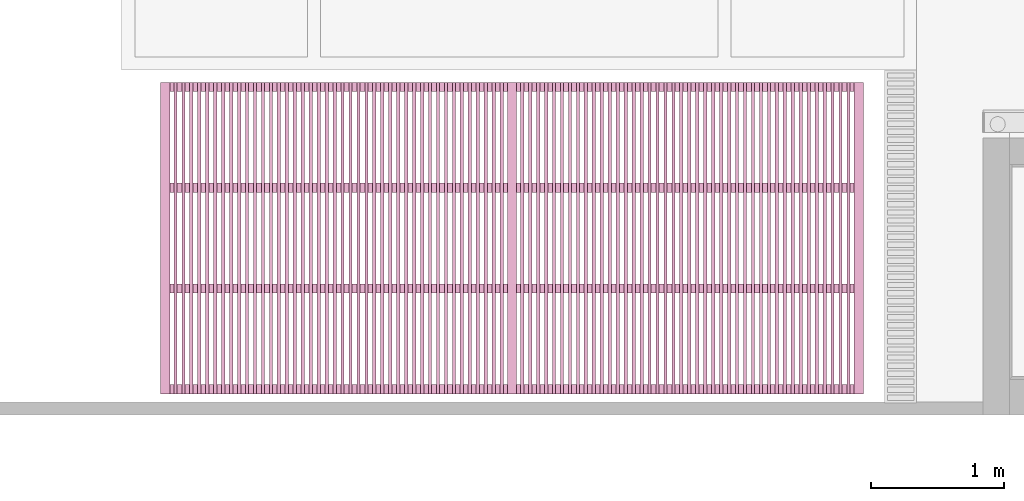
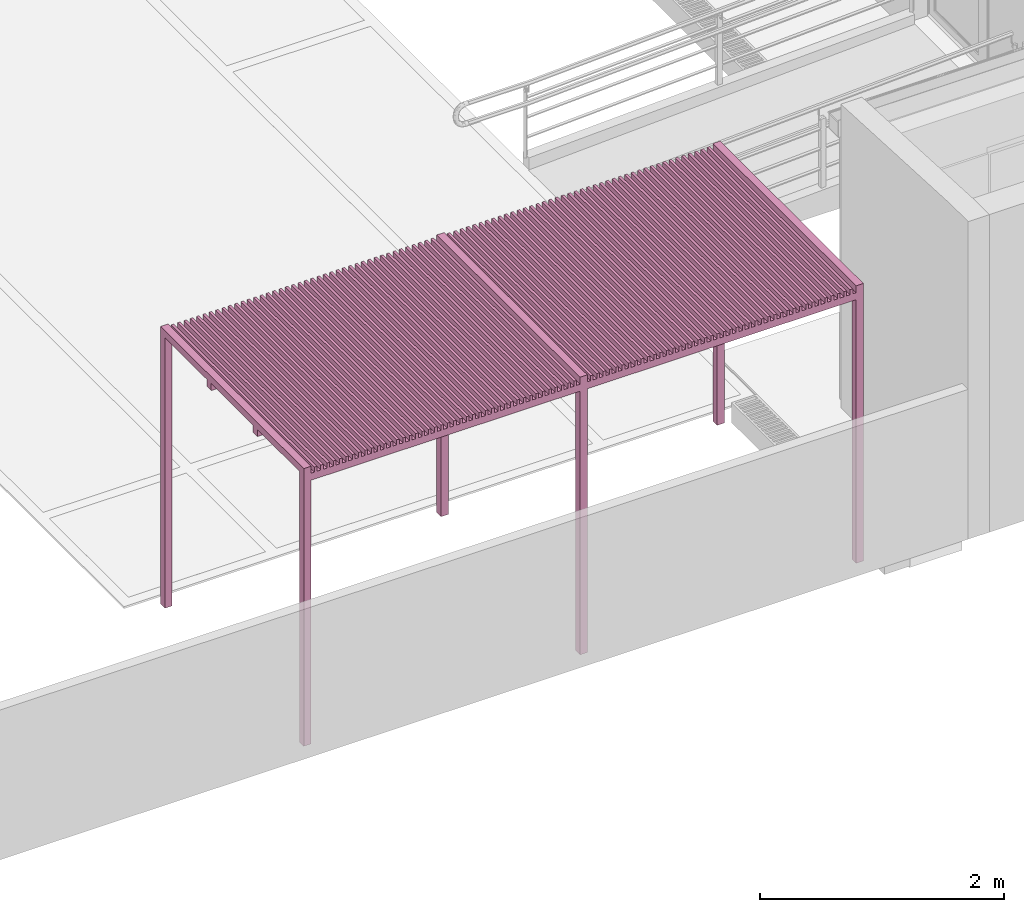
# One storey, part 69 of 75: 1 furnishing.
"""IFC2X3 building model written with IfcOpenShell, lengths in metres."""

from ifc_helpers import new_model, entity, si_unit, converted_unit, derived_unit, direction, frame, frame_2d, origin, origin_2d_with_axis, place, context, subcontext, project, spatial, rectangle, extrude, source, transform, mapped, material, material_list, type_object, type_shapes, element, save


model = new_model("IFC2X3")

# Units and contexts
model_context = context("Model", 3, precision=1e-05, world=origin(), true_north=direction((6.12303176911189e-17, 1.0)))
body_context = subcontext(model_context, "Body", "Model", "MODEL_VIEW")
ifc_project = project(units=[si_unit("LENGTHUNIT", "METRE"), si_unit("AREAUNIT", "SQUARE_METRE"), si_unit("VOLUMEUNIT", "CUBIC_METRE"), converted_unit("PLANEANGLEUNIT", "DEGREE", entity("IfcRatioMeasure", 0.0174532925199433), si_unit("PLANEANGLEUNIT", "RADIAN"), dimensions=[0, 0, 0, 0, 0, 0, 0]), si_unit("MASSUNIT", "GRAM", prefix="KILO"), derived_unit("MASSDENSITYUNIT", [(si_unit("MASSUNIT", "GRAM", prefix="KILO"), 1), (si_unit("LENGTHUNIT", "METRE"), -3)]), derived_unit("MOMENTOFINERTIAUNIT", [(si_unit("LENGTHUNIT", "METRE"), 4)]), si_unit("TIMEUNIT", "SECOND"), si_unit("FREQUENCYUNIT", "HERTZ"), si_unit("THERMODYNAMICTEMPERATUREUNIT", "DEGREE_CELSIUS"), derived_unit("THERMALTRANSMITTANCEUNIT", [(si_unit("MASSUNIT", "GRAM", prefix="KILO"), 1), (si_unit("THERMODYNAMICTEMPERATUREUNIT", "KELVIN"), -1), (si_unit("TIMEUNIT", "SECOND"), -3)]), derived_unit("VOLUMETRICFLOWRATEUNIT", [(si_unit("LENGTHUNIT", "METRE"), 3), (si_unit("TIMEUNIT", "SECOND"), -1)]), si_unit("ELECTRICCURRENTUNIT", "AMPERE"), si_unit("ELECTRICVOLTAGEUNIT", "VOLT"), si_unit("POWERUNIT", "WATT"), si_unit("FORCEUNIT", "NEWTON", prefix="KILO"), si_unit("ILLUMINANCEUNIT", "LUX"), si_unit("LUMINOUSFLUXUNIT", "LUMEN"), si_unit("LUMINOUSINTENSITYUNIT", "CANDELA"), derived_unit("USERDEFINED", [(si_unit("MASSUNIT", "GRAM", prefix="KILO"), -1), (si_unit("LENGTHUNIT", "METRE"), -2), (si_unit("TIMEUNIT", "SECOND"), 3), (si_unit("LUMINOUSFLUXUNIT", "LUMEN"), 1)]), derived_unit("LINEARVELOCITYUNIT", [(si_unit("LENGTHUNIT", "METRE"), 1), (si_unit("TIMEUNIT", "SECOND"), -1)]), si_unit("PRESSUREUNIT", "PASCAL"), derived_unit("USERDEFINED", [(si_unit("LENGTHUNIT", "METRE"), -2), (si_unit("MASSUNIT", "GRAM", prefix="KILO"), 1), (si_unit("TIMEUNIT", "SECOND"), -2)]), derived_unit("LINEARFORCEUNIT", [(si_unit("MASSUNIT", "GRAM", prefix="KILO"), 1), (si_unit("LENGTHUNIT", "METRE"), 1), (si_unit("TIMEUNIT", "SECOND"), -2), (si_unit("LENGTHUNIT", "METRE"), -1)]), derived_unit("PLANARFORCEUNIT", [(si_unit("MASSUNIT", "GRAM", prefix="KILO"), 1), (si_unit("LENGTHUNIT", "METRE"), 1), (si_unit("TIMEUNIT", "SECOND"), -2), (si_unit("LENGTHUNIT", "METRE"), -2)])], contexts=[model_context])

# Site, building, storey
site_placement = place(None, origin())
site = spatial("IfcSite", under=ifc_project, at=site_placement, Name="Superficie", CompositionType="ELEMENT")
building_placement = place(site_placement, origin())
building = spatial("IfcBuilding", under=site, at=building_placement, Name="Telegestiones", CompositionType="ELEMENT")
storey_placement = place(building_placement, origin())
storey = spatial("IfcBuildingStorey", under=building, at=storey_placement, Name="Nivel 0_NPT", CompositionType="ELEMENT", Elevation=0.0)

# Furnishing
ifc_material = material(Name="Acero, acabado de pintura, gris oscuro, mate")
ifc_material_list_1 = material_list([ifc_material, ifc_material, ifc_material, ifc_material, ifc_material, ifc_material, ifc_material, ifc_material, ifc_material, ifc_material, ifc_material, ifc_material, ifc_material, ifc_material, ifc_material, ifc_material, ifc_material, ifc_material, ifc_material, ifc_material, ifc_material, ifc_material, ifc_material, ifc_material, ifc_material, ifc_material, ifc_material, ifc_material, ifc_material, ifc_material, ifc_material, ifc_material, ifc_material, ifc_material, ifc_material, ifc_material, ifc_material, ifc_material, ifc_material, ifc_material, ifc_material, ifc_material, ifc_material, ifc_material, ifc_material, ifc_material, ifc_material, ifc_material, ifc_material, ifc_material, ifc_material, ifc_material, ifc_material, ifc_material, ifc_material, ifc_material, ifc_material, ifc_material, ifc_material, ifc_material, ifc_material, ifc_material, ifc_material, ifc_material, ifc_material, ifc_material, ifc_material, ifc_material, ifc_material, ifc_material, ifc_material, ifc_material, ifc_material, ifc_material, ifc_material, ifc_material, ifc_material, ifc_material, ifc_material, ifc_material, ifc_material, ifc_material, ifc_material, ifc_material, ifc_material, ifc_material, ifc_material, ifc_material, ifc_material, ifc_material, ifc_material, ifc_material, ifc_material, ifc_material, ifc_material, ifc_material, ifc_material])
ifc_material_list_2 = material_list([ifc_material, ifc_material, ifc_material, ifc_material, ifc_material, ifc_material, ifc_material, ifc_material, ifc_material, ifc_material, ifc_material, ifc_material, ifc_material, ifc_material, ifc_material, ifc_material, ifc_material, ifc_material, ifc_material, ifc_material, ifc_material, ifc_material, ifc_material, ifc_material, ifc_material, ifc_material, ifc_material, ifc_material, ifc_material, ifc_material, ifc_material, ifc_material, ifc_material, ifc_material, ifc_material, ifc_material, ifc_material, ifc_material, ifc_material, ifc_material, ifc_material, ifc_material, ifc_material, ifc_material, ifc_material, ifc_material, ifc_material, ifc_material, ifc_material, ifc_material, ifc_material, ifc_material, ifc_material, ifc_material, ifc_material, ifc_material, ifc_material, ifc_material, ifc_material, ifc_material, ifc_material, ifc_material, ifc_material, ifc_material, ifc_material, ifc_material, ifc_material, ifc_material, ifc_material, ifc_material, ifc_material, ifc_material, ifc_material, ifc_material, ifc_material, ifc_material, ifc_material, ifc_material, ifc_material, ifc_material, ifc_material, ifc_material, ifc_material, ifc_material, ifc_material, ifc_material, ifc_material, ifc_material, ifc_material, ifc_material, ifc_material, ifc_material, ifc_material, ifc_material, ifc_material, ifc_material, ifc_material])
furniture_type = type_object("IfcFurnitureType", Name="ARQ-EXT-Pergola-Mad:ARQ-EXT-Pergola-Mad", material=ifc_material_list_2)
shared_shape = source(origin(), body_context, "Body", "SweptSolid", [
    extrude(rectangle(XDim=0.0699999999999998, YDim=0.0700000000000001, at=frame_2d((2.70616862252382e-16, 0.0), x_axis=(1.0, 0.0))), frame((-2.57029967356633, -0.035, 0.0), z_axis=(0.0, 0.0, 1.0), x_axis=(-1.0, 0.0, 0.0)), (0.0, 0.0, 1.0), 2.63999999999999),
    extrude(rectangle(XDim=0.0700000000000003, YDim=0.0700000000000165, at=frame_2d((0.0, -4.11129463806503e-15), x_axis=(1.0, 0.0))), frame((2.65970032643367, -0.0350000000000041, 0.0), z_axis=(0.0, 0.0, 1.0), x_axis=(-1.0, 0.0, 0.0)), (0.0, 0.0, 1.0), 2.63999999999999),
    extrude(rectangle(XDim=0.0699999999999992, YDim=0.0700000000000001, at=frame_2d((0.0, 1.35308431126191e-16), x_axis=(1.0, 0.0))), frame((2.65970032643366, -2.31500000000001, 0.0), z_axis=(0.0, 0.0, 1.0), x_axis=(-1.0, 0.0, 0.0)), (0.0, 0.0, 1.0), 2.63999999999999),
    extrude(rectangle(XDim=0.0699999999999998, YDim=0.0700000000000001, at=frame_2d((2.70616862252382e-16, -1.35308431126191e-16), x_axis=(1.0, 0.0))), frame((-2.57029967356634, -2.31499999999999, 0.0), z_axis=(0.0, 0.0, 1.0), x_axis=(-1.0, 0.0, 0.0)), (0.0, 0.0, 1.0), 2.63999999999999),
    extrude(rectangle(XDim=0.0700000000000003, YDim=0.0700000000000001, at=origin_2d_with_axis()), frame((0.0447003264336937, -0.0349999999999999, 0.0), z_axis=(0.0, 0.0, 1.0), x_axis=(-1.0, 0.0, 0.0)), (0.0, 0.0, 1.0), 2.63999999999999),
    extrude(rectangle(XDim=0.0700000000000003, YDim=0.0700000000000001, at=frame_2d((0.0, -1.35308431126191e-16), x_axis=(1.0, 0.0))), frame((0.0447003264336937, -2.315, 0.0), z_axis=(0.0, 0.0, 1.0), x_axis=(-1.0, 0.0, 0.0)), (0.0, 0.0, 1.0), 2.63999999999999),
    extrude(rectangle(XDim=0.0249999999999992, YDim=2.35, at=origin_2d_with_axis()), frame((-0.0330303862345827, -1.17500000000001, 2.70999999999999), z_axis=(0.0, 0.0, 1.0), x_axis=(-1.0, 0.0, 0.0)), (0.0, 0.0, 1.0), 0.05),
    extrude(rectangle(XDim=0.0249999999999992, YDim=2.35, at=origin_2d_with_axis()), frame((-0.0930303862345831, -1.17500000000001, 2.70999999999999), z_axis=(0.0, 0.0, 1.0), x_axis=(-1.0, 0.0, 0.0)), (0.0, 0.0, 1.0), 0.05),
    extrude(rectangle(XDim=0.0249999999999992, YDim=2.35, at=origin_2d_with_axis()), frame((-0.153030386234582, -1.17500000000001, 2.70999999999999), z_axis=(0.0, 0.0, 1.0), x_axis=(-1.0, 0.0, 0.0)), (0.0, 0.0, 1.0), 0.05),
    extrude(rectangle(XDim=0.0249999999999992, YDim=2.35, at=origin_2d_with_axis()), frame((-0.213030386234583, -1.17500000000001, 2.70999999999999), z_axis=(0.0, 0.0, 1.0), x_axis=(-1.0, 0.0, 0.0)), (0.0, 0.0, 1.0), 0.05),
    extrude(rectangle(XDim=0.0249999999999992, YDim=2.35, at=origin_2d_with_axis()), frame((-0.273030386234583, -1.17500000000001, 2.70999999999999), z_axis=(0.0, 0.0, 1.0), x_axis=(-1.0, 0.0, 0.0)), (0.0, 0.0, 1.0), 0.05),
    extrude(rectangle(XDim=0.0249999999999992, YDim=2.35, at=origin_2d_with_axis()), frame((-0.333030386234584, -1.17500000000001, 2.70999999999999), z_axis=(0.0, 0.0, 1.0), x_axis=(-1.0, 0.0, 0.0)), (0.0, 0.0, 1.0), 0.05),
    extrude(rectangle(XDim=0.0249999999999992, YDim=2.35, at=origin_2d_with_axis()), frame((-0.393030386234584, -1.17500000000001, 2.70999999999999), z_axis=(0.0, 0.0, 1.0), x_axis=(-1.0, 0.0, 0.0)), (0.0, 0.0, 1.0), 0.05),
    extrude(rectangle(XDim=0.0249999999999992, YDim=2.35, at=origin_2d_with_axis()), frame((-0.453030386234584, -1.17500000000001, 2.70999999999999), z_axis=(0.0, 0.0, 1.0), x_axis=(-1.0, 0.0, 0.0)), (0.0, 0.0, 1.0), 0.05),
    extrude(rectangle(XDim=0.0249999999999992, YDim=2.35, at=origin_2d_with_axis()), frame((-0.513030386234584, -1.17500000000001, 2.70999999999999), z_axis=(0.0, 0.0, 1.0), x_axis=(-1.0, 0.0, 0.0)), (0.0, 0.0, 1.0), 0.05),
    extrude(rectangle(XDim=0.0249999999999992, YDim=2.35, at=origin_2d_with_axis()), frame((-0.573030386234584, -1.17500000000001, 2.70999999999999), z_axis=(0.0, 0.0, 1.0), x_axis=(-1.0, 0.0, 0.0)), (0.0, 0.0, 1.0), 0.05),
    extrude(rectangle(XDim=0.0249999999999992, YDim=2.35, at=origin_2d_with_axis()), frame((-0.633030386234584, -1.17500000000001, 2.70999999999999), z_axis=(0.0, 0.0, 1.0), x_axis=(-1.0, 0.0, 0.0)), (0.0, 0.0, 1.0), 0.05),
    extrude(rectangle(XDim=0.0249999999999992, YDim=2.35, at=origin_2d_with_axis()), frame((-0.693030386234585, -1.175, 2.70999999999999), z_axis=(0.0, 0.0, 1.0), x_axis=(-1.0, 0.0, 0.0)), (0.0, 0.0, 1.0), 0.05),
    extrude(rectangle(XDim=0.0249999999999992, YDim=2.35, at=origin_2d_with_axis()), frame((-0.753030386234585, -1.175, 2.70999999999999), z_axis=(0.0, 0.0, 1.0), x_axis=(-1.0, 0.0, 0.0)), (0.0, 0.0, 1.0), 0.05),
    extrude(rectangle(XDim=0.0249999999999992, YDim=2.35, at=origin_2d_with_axis()), frame((-0.813030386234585, -1.175, 2.70999999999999), z_axis=(0.0, 0.0, 1.0), x_axis=(-1.0, 0.0, 0.0)), (0.0, 0.0, 1.0), 0.05),
    extrude(rectangle(XDim=0.0249999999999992, YDim=2.35, at=origin_2d_with_axis()), frame((-0.873030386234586, -1.175, 2.70999999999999), z_axis=(0.0, 0.0, 1.0), x_axis=(-1.0, 0.0, 0.0)), (0.0, 0.0, 1.0), 0.05),
    extrude(rectangle(XDim=0.0249999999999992, YDim=2.35, at=origin_2d_with_axis()), frame((-0.933030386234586, -1.175, 2.70999999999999), z_axis=(0.0, 0.0, 1.0), x_axis=(-1.0, 0.0, 0.0)), (0.0, 0.0, 1.0), 0.05),
    extrude(rectangle(XDim=0.0249999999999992, YDim=2.35, at=origin_2d_with_axis()), frame((-0.993030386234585, -1.175, 2.70999999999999), z_axis=(0.0, 0.0, 1.0), x_axis=(-1.0, 0.0, 0.0)), (0.0, 0.0, 1.0), 0.05),
    extrude(rectangle(XDim=0.0249999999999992, YDim=2.35, at=origin_2d_with_axis()), frame((-1.05303038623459, -1.175, 2.70999999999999), z_axis=(0.0, 0.0, 1.0), x_axis=(-1.0, 0.0, 0.0)), (0.0, 0.0, 1.0), 0.05),
    extrude(rectangle(XDim=0.0249999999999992, YDim=2.35, at=origin_2d_with_axis()), frame((-1.11303038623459, -1.175, 2.70999999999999), z_axis=(0.0, 0.0, 1.0), x_axis=(-1.0, 0.0, 0.0)), (0.0, 0.0, 1.0), 0.05),
    extrude(rectangle(XDim=0.0249999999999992, YDim=2.35, at=origin_2d_with_axis()), frame((-1.17303038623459, -1.175, 2.70999999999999), z_axis=(0.0, 0.0, 1.0), x_axis=(-1.0, 0.0, 0.0)), (0.0, 0.0, 1.0), 0.05),
    extrude(rectangle(XDim=0.0249999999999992, YDim=2.35, at=origin_2d_with_axis()), frame((-1.23303038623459, -1.175, 2.70999999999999), z_axis=(0.0, 0.0, 1.0), x_axis=(-1.0, 0.0, 0.0)), (0.0, 0.0, 1.0), 0.05),
    extrude(rectangle(XDim=0.0249999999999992, YDim=2.35, at=origin_2d_with_axis()), frame((-1.29303038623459, -1.175, 2.70999999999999), z_axis=(0.0, 0.0, 1.0), x_axis=(-1.0, 0.0, 0.0)), (0.0, 0.0, 1.0), 0.05),
    extrude(rectangle(XDim=0.0249999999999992, YDim=2.35, at=origin_2d_with_axis()), frame((-1.35303038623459, -1.175, 2.70999999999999), z_axis=(0.0, 0.0, 1.0), x_axis=(-1.0, 0.0, 0.0)), (0.0, 0.0, 1.0), 0.05),
    extrude(rectangle(XDim=0.0249999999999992, YDim=2.35, at=origin_2d_with_axis()), frame((-1.41303038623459, -1.175, 2.70999999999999), z_axis=(0.0, 0.0, 1.0), x_axis=(-1.0, 0.0, 0.0)), (0.0, 0.0, 1.0), 0.05),
    extrude(rectangle(XDim=0.0249999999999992, YDim=2.35, at=origin_2d_with_axis()), frame((-1.47303038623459, -1.175, 2.70999999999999), z_axis=(0.0, 0.0, 1.0), x_axis=(-1.0, 0.0, 0.0)), (0.0, 0.0, 1.0), 0.05),
    extrude(rectangle(XDim=0.0249999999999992, YDim=2.35, at=origin_2d_with_axis()), frame((-1.53303038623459, -1.175, 2.70999999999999), z_axis=(0.0, 0.0, 1.0), x_axis=(-1.0, 0.0, 0.0)), (0.0, 0.0, 1.0), 0.05),
    extrude(rectangle(XDim=0.0249999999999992, YDim=2.35, at=origin_2d_with_axis()), frame((-1.59303038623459, -1.175, 2.70999999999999), z_axis=(0.0, 0.0, 1.0), x_axis=(-1.0, 0.0, 0.0)), (0.0, 0.0, 1.0), 0.05),
    extrude(rectangle(XDim=0.0249999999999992, YDim=2.35, at=frame_2d((2.70616862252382e-16, 0.0), x_axis=(1.0, 0.0))), frame((-1.65303038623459, -1.175, 2.70999999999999), z_axis=(0.0, 0.0, 1.0), x_axis=(-1.0, 0.0, 0.0)), (0.0, 0.0, 1.0), 0.05),
    extrude(rectangle(XDim=0.0249999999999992, YDim=2.35, at=frame_2d((-2.70616862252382e-16, 0.0), x_axis=(1.0, 0.0))), frame((-1.71303038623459, -1.175, 2.70999999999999), z_axis=(0.0, 0.0, 1.0), x_axis=(-1.0, 0.0, 0.0)), (0.0, 0.0, 1.0), 0.05),
    extrude(rectangle(XDim=0.0249999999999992, YDim=2.35, at=frame_2d((2.70616862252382e-16, 0.0), x_axis=(1.0, 0.0))), frame((-1.77303038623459, -1.175, 2.70999999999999), z_axis=(0.0, 0.0, 1.0), x_axis=(-1.0, 0.0, 0.0)), (0.0, 0.0, 1.0), 0.05),
    extrude(rectangle(XDim=0.0249999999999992, YDim=2.35, at=frame_2d((-2.70616862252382e-16, 0.0), x_axis=(1.0, 0.0))), frame((-1.83303038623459, -1.175, 2.70999999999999), z_axis=(0.0, 0.0, 1.0), x_axis=(-1.0, 0.0, 0.0)), (0.0, 0.0, 1.0), 0.05),
    extrude(rectangle(XDim=0.0249999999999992, YDim=2.35, at=origin_2d_with_axis()), frame((-1.89303038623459, -1.175, 2.70999999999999), z_axis=(0.0, 0.0, 1.0), x_axis=(-1.0, 0.0, 0.0)), (0.0, 0.0, 1.0), 0.05),
    extrude(rectangle(XDim=0.0249999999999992, YDim=2.35, at=frame_2d((2.70616862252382e-16, 0.0), x_axis=(1.0, 0.0))), frame((-1.95303038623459, -1.175, 2.70999999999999), z_axis=(0.0, 0.0, 1.0), x_axis=(-1.0, 0.0, 0.0)), (0.0, 0.0, 1.0), 0.05),
    extrude(rectangle(XDim=0.0249999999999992, YDim=2.35, at=frame_2d((-2.70616862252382e-16, 0.0), x_axis=(1.0, 0.0))), frame((-2.01303038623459, -1.175, 2.70999999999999), z_axis=(0.0, 0.0, 1.0), x_axis=(-1.0, 0.0, 0.0)), (0.0, 0.0, 1.0), 0.05),
    extrude(rectangle(XDim=0.0249999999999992, YDim=2.35, at=frame_2d((2.70616862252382e-16, 0.0), x_axis=(1.0, 0.0))), frame((-2.07303038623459, -1.175, 2.70999999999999), z_axis=(0.0, 0.0, 1.0), x_axis=(-1.0, 0.0, 0.0)), (0.0, 0.0, 1.0), 0.05),
    extrude(rectangle(XDim=0.0249999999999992, YDim=2.35, at=origin_2d_with_axis()), frame((-2.13303038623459, -1.175, 2.70999999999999), z_axis=(0.0, 0.0, 1.0), x_axis=(-1.0, 0.0, 0.0)), (0.0, 0.0, 1.0), 0.05),
    extrude(rectangle(XDim=0.0249999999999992, YDim=2.35, at=origin_2d_with_axis()), frame((-2.19303038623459, -1.175, 2.70999999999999), z_axis=(0.0, 0.0, 1.0), x_axis=(-1.0, 0.0, 0.0)), (0.0, 0.0, 1.0), 0.05),
    extrude(rectangle(XDim=0.0249999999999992, YDim=2.35, at=frame_2d((2.70616862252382e-16, 0.0), x_axis=(1.0, 0.0))), frame((-2.25303038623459, -1.175, 2.70999999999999), z_axis=(0.0, 0.0, 1.0), x_axis=(-1.0, 0.0, 0.0)), (0.0, 0.0, 1.0), 0.05),
    extrude(rectangle(XDim=0.0249999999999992, YDim=2.35, at=frame_2d((-2.70616862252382e-16, 0.0), x_axis=(1.0, 0.0))), frame((-2.31303038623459, -1.175, 2.70999999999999), z_axis=(0.0, 0.0, 1.0), x_axis=(-1.0, 0.0, 0.0)), (0.0, 0.0, 1.0), 0.05),
    extrude(rectangle(XDim=0.0249999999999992, YDim=2.35, at=origin_2d_with_axis()), frame((-2.37303038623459, -1.175, 2.70999999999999), z_axis=(0.0, 0.0, 1.0), x_axis=(-1.0, 0.0, 0.0)), (0.0, 0.0, 1.0), 0.05),
    extrude(rectangle(XDim=0.0249999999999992, YDim=2.35, at=origin_2d_with_axis()), frame((-2.43303038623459, -1.175, 2.70999999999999), z_axis=(0.0, 0.0, 1.0), x_axis=(-1.0, 0.0, 0.0)), (0.0, 0.0, 1.0), 0.05),
    extrude(rectangle(XDim=0.0249999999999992, YDim=2.35, at=frame_2d((-2.70616862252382e-16, 0.0), x_axis=(1.0, 0.0))), frame((-2.49303038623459, -1.175, 2.70999999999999), z_axis=(0.0, 0.0, 1.0), x_axis=(-1.0, 0.0, 0.0)), (0.0, 0.0, 1.0), 0.05),
    extrude(rectangle(XDim=0.0249999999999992, YDim=2.35, at=frame_2d((2.70616862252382e-16, 0.0), x_axis=(1.0, 0.0))), frame((2.5819696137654, -1.17500000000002, 2.70999999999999), z_axis=(0.0, 0.0, 1.0), x_axis=(-1.0, 0.0, 0.0)), (0.0, 0.0, 1.0), 0.05),
    extrude(rectangle(XDim=0.0249999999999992, YDim=2.35, at=frame_2d((2.70616862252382e-16, 0.0), x_axis=(1.0, 0.0))), frame((2.5219696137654, -1.17500000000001, 2.70999999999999), z_axis=(0.0, 0.0, 1.0), x_axis=(-1.0, 0.0, 0.0)), (0.0, 0.0, 1.0), 0.05),
    extrude(rectangle(XDim=0.0249999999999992, YDim=2.35, at=frame_2d((2.70616862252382e-16, 0.0), x_axis=(1.0, 0.0))), frame((2.4619696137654, -1.17500000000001, 2.70999999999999), z_axis=(0.0, 0.0, 1.0), x_axis=(-1.0, 0.0, 0.0)), (0.0, 0.0, 1.0), 0.05),
    extrude(rectangle(XDim=0.0249999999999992, YDim=2.35, at=origin_2d_with_axis()), frame((2.4019696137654, -1.17500000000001, 2.70999999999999), z_axis=(0.0, 0.0, 1.0), x_axis=(-1.0, 0.0, 0.0)), (0.0, 0.0, 1.0), 0.05),
    extrude(rectangle(XDim=0.0249999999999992, YDim=2.35, at=origin_2d_with_axis()), frame((2.3419696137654, -1.17500000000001, 2.70999999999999), z_axis=(0.0, 0.0, 1.0), x_axis=(-1.0, 0.0, 0.0)), (0.0, 0.0, 1.0), 0.05),
    extrude(rectangle(XDim=0.0249999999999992, YDim=2.35, at=origin_2d_with_axis()), frame((2.2819696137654, -1.17500000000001, 2.70999999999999), z_axis=(0.0, 0.0, 1.0), x_axis=(-1.0, 0.0, 0.0)), (0.0, 0.0, 1.0), 0.05),
    extrude(rectangle(XDim=0.0249999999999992, YDim=2.35, at=origin_2d_with_axis()), frame((2.22196961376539, -1.17500000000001, 2.70999999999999), z_axis=(0.0, 0.0, 1.0), x_axis=(-1.0, 0.0, 0.0)), (0.0, 0.0, 1.0), 0.05),
    extrude(rectangle(XDim=0.0249999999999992, YDim=2.35, at=frame_2d((-2.70616862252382e-16, 0.0), x_axis=(1.0, 0.0))), frame((2.16196961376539, -1.17500000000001, 2.70999999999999), z_axis=(0.0, 0.0, 1.0), x_axis=(-1.0, 0.0, 0.0)), (0.0, 0.0, 1.0), 0.05),
    extrude(rectangle(XDim=0.0249999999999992, YDim=2.35, at=origin_2d_with_axis()), frame((2.10196961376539, -1.17500000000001, 2.70999999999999), z_axis=(0.0, 0.0, 1.0), x_axis=(-1.0, 0.0, 0.0)), (0.0, 0.0, 1.0), 0.05),
    extrude(rectangle(XDim=0.0249999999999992, YDim=2.35, at=origin_2d_with_axis()), frame((2.04196961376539, -1.17500000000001, 2.70999999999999), z_axis=(0.0, 0.0, 1.0), x_axis=(-1.0, 0.0, 0.0)), (0.0, 0.0, 1.0), 0.05),
    extrude(rectangle(XDim=0.0249999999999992, YDim=2.35, at=frame_2d((-2.70616862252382e-16, 0.0), x_axis=(1.0, 0.0))), frame((1.98196961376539, -1.17500000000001, 2.70999999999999), z_axis=(0.0, 0.0, 1.0), x_axis=(-1.0, 0.0, 0.0)), (0.0, 0.0, 1.0), 0.05),
    extrude(rectangle(XDim=0.0249999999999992, YDim=2.35, at=frame_2d((2.70616862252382e-16, 0.0), x_axis=(1.0, 0.0))), frame((1.92196961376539, -1.17500000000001, 2.70999999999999), z_axis=(0.0, 0.0, 1.0), x_axis=(-1.0, 0.0, 0.0)), (0.0, 0.0, 1.0), 0.05),
    extrude(rectangle(XDim=0.0249999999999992, YDim=2.35, at=frame_2d((-2.70616862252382e-16, 0.0), x_axis=(1.0, 0.0))), frame((1.86196961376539, -1.17500000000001, 2.70999999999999), z_axis=(0.0, 0.0, 1.0), x_axis=(-1.0, 0.0, 0.0)), (0.0, 0.0, 1.0), 0.05),
    extrude(rectangle(XDim=0.0249999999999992, YDim=2.35, at=origin_2d_with_axis()), frame((1.80196961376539, -1.17500000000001, 2.70999999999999), z_axis=(0.0, 0.0, 1.0), x_axis=(-1.0, 0.0, 0.0)), (0.0, 0.0, 1.0), 0.05),
    extrude(rectangle(XDim=0.0249999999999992, YDim=2.35, at=origin_2d_with_axis()), frame((1.74196961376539, -1.17500000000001, 2.70999999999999), z_axis=(0.0, 0.0, 1.0), x_axis=(-1.0, 0.0, 0.0)), (0.0, 0.0, 1.0), 0.05),
    extrude(rectangle(XDim=0.0249999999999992, YDim=2.35, at=origin_2d_with_axis()), frame((1.68196961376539, -1.17500000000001, 2.70999999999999), z_axis=(0.0, 0.0, 1.0), x_axis=(-1.0, 0.0, 0.0)), (0.0, 0.0, 1.0), 0.05),
    extrude(rectangle(XDim=0.0249999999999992, YDim=2.35, at=origin_2d_with_axis()), frame((1.62196961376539, -1.17500000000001, 2.70999999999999), z_axis=(0.0, 0.0, 1.0), x_axis=(-1.0, 0.0, 0.0)), (0.0, 0.0, 1.0), 0.05),
    extrude(rectangle(XDim=0.0249999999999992, YDim=2.35, at=origin_2d_with_axis()), frame((1.56196961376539, -1.17500000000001, 2.70999999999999), z_axis=(0.0, 0.0, 1.0), x_axis=(-1.0, 0.0, 0.0)), (0.0, 0.0, 1.0), 0.05),
    extrude(rectangle(XDim=0.0249999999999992, YDim=2.35, at=origin_2d_with_axis()), frame((1.50196961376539, -1.17500000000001, 2.70999999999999), z_axis=(0.0, 0.0, 1.0), x_axis=(-1.0, 0.0, 0.0)), (0.0, 0.0, 1.0), 0.05),
    extrude(rectangle(XDim=0.0249999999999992, YDim=2.35, at=origin_2d_with_axis()), frame((1.44196961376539, -1.17500000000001, 2.70999999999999), z_axis=(0.0, 0.0, 1.0), x_axis=(-1.0, 0.0, 0.0)), (0.0, 0.0, 1.0), 0.05),
    extrude(rectangle(XDim=0.0249999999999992, YDim=2.35, at=origin_2d_with_axis()), frame((1.38196961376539, -1.17500000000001, 2.70999999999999), z_axis=(0.0, 0.0, 1.0), x_axis=(-1.0, 0.0, 0.0)), (0.0, 0.0, 1.0), 0.05),
    extrude(rectangle(XDim=0.0249999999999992, YDim=2.35, at=origin_2d_with_axis()), frame((1.32196961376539, -1.17500000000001, 2.70999999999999), z_axis=(0.0, 0.0, 1.0), x_axis=(-1.0, 0.0, 0.0)), (0.0, 0.0, 1.0), 0.05),
    extrude(rectangle(XDim=0.0249999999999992, YDim=2.35, at=origin_2d_with_axis()), frame((1.26196961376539, -1.17500000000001, 2.70999999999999), z_axis=(0.0, 0.0, 1.0), x_axis=(-1.0, 0.0, 0.0)), (0.0, 0.0, 1.0), 0.05),
    extrude(rectangle(XDim=0.0249999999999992, YDim=2.35, at=origin_2d_with_axis()), frame((1.20196961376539, -1.17500000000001, 2.70999999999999), z_axis=(0.0, 0.0, 1.0), x_axis=(-1.0, 0.0, 0.0)), (0.0, 0.0, 1.0), 0.05),
    extrude(rectangle(XDim=0.0249999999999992, YDim=2.35, at=origin_2d_with_axis()), frame((1.14196961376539, -1.17500000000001, 2.70999999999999), z_axis=(0.0, 0.0, 1.0), x_axis=(-1.0, 0.0, 0.0)), (0.0, 0.0, 1.0), 0.05),
    extrude(rectangle(XDim=0.0249999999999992, YDim=2.35, at=origin_2d_with_axis()), frame((1.08196961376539, -1.17500000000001, 2.70999999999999), z_axis=(0.0, 0.0, 1.0), x_axis=(-1.0, 0.0, 0.0)), (0.0, 0.0, 1.0), 0.05),
    extrude(rectangle(XDim=0.0249999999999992, YDim=2.35, at=origin_2d_with_axis()), frame((1.02196961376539, -1.17500000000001, 2.70999999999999), z_axis=(0.0, 0.0, 1.0), x_axis=(-1.0, 0.0, 0.0)), (0.0, 0.0, 1.0), 0.05),
    extrude(rectangle(XDim=0.0249999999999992, YDim=2.35, at=origin_2d_with_axis()), frame((0.961969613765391, -1.17500000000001, 2.70999999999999), z_axis=(0.0, 0.0, 1.0), x_axis=(-1.0, 0.0, 0.0)), (0.0, 0.0, 1.0), 0.05),
    extrude(rectangle(XDim=0.0249999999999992, YDim=2.35, at=origin_2d_with_axis()), frame((0.901969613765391, -1.17500000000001, 2.70999999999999), z_axis=(0.0, 0.0, 1.0), x_axis=(-1.0, 0.0, 0.0)), (0.0, 0.0, 1.0), 0.05),
    extrude(rectangle(XDim=0.0249999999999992, YDim=2.35, at=origin_2d_with_axis()), frame((0.84196961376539, -1.17500000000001, 2.70999999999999), z_axis=(0.0, 0.0, 1.0), x_axis=(-1.0, 0.0, 0.0)), (0.0, 0.0, 1.0), 0.05),
    extrude(rectangle(XDim=0.0249999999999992, YDim=2.35, at=origin_2d_with_axis()), frame((0.78196961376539, -1.17500000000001, 2.70999999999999), z_axis=(0.0, 0.0, 1.0), x_axis=(-1.0, 0.0, 0.0)), (0.0, 0.0, 1.0), 0.05),
    extrude(rectangle(XDim=0.0249999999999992, YDim=2.35, at=origin_2d_with_axis()), frame((0.72196961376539, -1.17500000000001, 2.70999999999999), z_axis=(0.0, 0.0, 1.0), x_axis=(-1.0, 0.0, 0.0)), (0.0, 0.0, 1.0), 0.05),
    extrude(rectangle(XDim=0.0249999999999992, YDim=2.35, at=origin_2d_with_axis()), frame((0.66196961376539, -1.17500000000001, 2.70999999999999), z_axis=(0.0, 0.0, 1.0), x_axis=(-1.0, 0.0, 0.0)), (0.0, 0.0, 1.0), 0.05),
    extrude(rectangle(XDim=0.0249999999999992, YDim=2.35, at=origin_2d_with_axis()), frame((0.601969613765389, -1.17500000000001, 2.70999999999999), z_axis=(0.0, 0.0, 1.0), x_axis=(-1.0, 0.0, 0.0)), (0.0, 0.0, 1.0), 0.05),
    extrude(rectangle(XDim=0.0249999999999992, YDim=2.35, at=origin_2d_with_axis()), frame((0.541969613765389, -1.17500000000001, 2.70999999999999), z_axis=(0.0, 0.0, 1.0), x_axis=(-1.0, 0.0, 0.0)), (0.0, 0.0, 1.0), 0.05),
    extrude(rectangle(XDim=0.0249999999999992, YDim=2.35, at=origin_2d_with_axis()), frame((0.481969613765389, -1.17500000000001, 2.70999999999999), z_axis=(0.0, 0.0, 1.0), x_axis=(-1.0, 0.0, 0.0)), (0.0, 0.0, 1.0), 0.05),
    extrude(rectangle(XDim=0.0249999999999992, YDim=2.35, at=origin_2d_with_axis()), frame((0.421969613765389, -1.17500000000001, 2.70999999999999), z_axis=(0.0, 0.0, 1.0), x_axis=(-1.0, 0.0, 0.0)), (0.0, 0.0, 1.0), 0.05),
    extrude(rectangle(XDim=0.0249999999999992, YDim=2.35, at=origin_2d_with_axis()), frame((0.361969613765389, -1.17500000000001, 2.70999999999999), z_axis=(0.0, 0.0, 1.0), x_axis=(-1.0, 0.0, 0.0)), (0.0, 0.0, 1.0), 0.05),
    extrude(rectangle(XDim=0.0249999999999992, YDim=2.35, at=origin_2d_with_axis()), frame((0.301969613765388, -1.17500000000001, 2.70999999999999), z_axis=(0.0, 0.0, 1.0), x_axis=(-1.0, 0.0, 0.0)), (0.0, 0.0, 1.0), 0.05),
    extrude(rectangle(XDim=0.0249999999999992, YDim=2.35, at=origin_2d_with_axis()), frame((0.241969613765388, -1.17500000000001, 2.70999999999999), z_axis=(0.0, 0.0, 1.0), x_axis=(-1.0, 0.0, 0.0)), (0.0, 0.0, 1.0), 0.05),
    extrude(rectangle(XDim=0.0249999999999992, YDim=2.35, at=origin_2d_with_axis()), frame((0.181969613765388, -1.17500000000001, 2.70999999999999), z_axis=(0.0, 0.0, 1.0), x_axis=(-1.0, 0.0, 0.0)), (0.0, 0.0, 1.0), 0.05),
    extrude(rectangle(XDim=0.0249999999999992, YDim=2.35, at=origin_2d_with_axis()), frame((0.121969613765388, -1.17500000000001, 2.70999999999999), z_axis=(0.0, 0.0, 1.0), x_axis=(-1.0, 0.0, 0.0)), (0.0, 0.0, 1.0), 0.05),
    extrude(rectangle(XDim=0.0700000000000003, YDim=2.35, at=origin_2d_with_axis()), frame((2.65970032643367, -1.175, 2.70999999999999), z_axis=(0.0, 0.0, 1.0), x_axis=(-1.0, 0.0, 0.0)), (0.0, 0.0, 1.0), 0.0700000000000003),
    extrude(rectangle(XDim=0.0699999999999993, YDim=2.35, at=origin_2d_with_axis()), frame((-2.57029967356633, -1.175, 2.70999999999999), z_axis=(0.0, 0.0, 1.0), x_axis=(-1.0, 0.0, 0.0)), (0.0, 0.0, 1.0), 0.0700000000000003),
    extrude(rectangle(XDim=0.0700000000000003, YDim=2.34999999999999, at=origin_2d_with_axis()), frame((0.0447003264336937, -1.175, 2.70999999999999), z_axis=(0.0, 0.0, 1.0), x_axis=(-1.0, 0.0, 0.0)), (0.0, 0.0, 1.0), 0.0700000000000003),
    extrude(rectangle(XDim=5.3, YDim=0.0700000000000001, at=origin_2d_with_axis()), frame((0.0447003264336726, -0.0350000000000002, 2.63999999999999), z_axis=(0.0, 0.0, 1.0), x_axis=(-1.0, 0.0, 0.0)), (0.0, 0.0, 1.0), 0.0699999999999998),
    extrude(rectangle(XDim=5.3, YDim=0.0700000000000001, at=origin_2d_with_axis()), frame((0.0447003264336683, -0.795, 2.63999999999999), z_axis=(0.0, 0.0, 1.0), x_axis=(-1.0, 0.0, 0.0)), (0.0, 0.0, 1.0), 0.0699999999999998),
    extrude(rectangle(XDim=5.3, YDim=0.0700000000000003, at=origin_2d_with_axis()), frame((0.0447003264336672, -1.555, 2.63999999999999), z_axis=(0.0, 0.0, 1.0), x_axis=(-1.0, 0.0, 0.0)), (0.0, 0.0, 1.0), 0.0699999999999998),
    extrude(rectangle(XDim=5.3, YDim=0.0699999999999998, at=frame_2d((-6.66133814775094e-16, 2.70616862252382e-16), x_axis=(1.0, 0.0))), frame((0.0447003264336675, -2.315, 2.63999999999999), z_axis=(0.0, 0.0, 1.0), x_axis=(-1.0, 0.0, 0.0)), (0.0, 0.0, 1.0), 0.0699999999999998),
])
type_shapes(furniture_type, [shared_shape])
furnishing_placement = place(storey_placement, frame((-11.2398877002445, -1.84639277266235, -0.2)))
element("IfcFurnishingElement", 1, at=furnishing_placement, inside=storey, type_object=furniture_type, material=ifc_material_list_1, Name="ARQ-EXT-Pergola-Mad:ARQ-EXT-Pergola-Mad", ObjectType="ARQ-EXT-Pergola-Mad:ARQ-EXT-Pergola-Mad", context=body_context, shape_type="MappedRepresentation", body=[
    mapped(shared_shape, transform((0.0, 0.0, 0.0), scale=1.0)),
])

save(model, "model.ifc")
